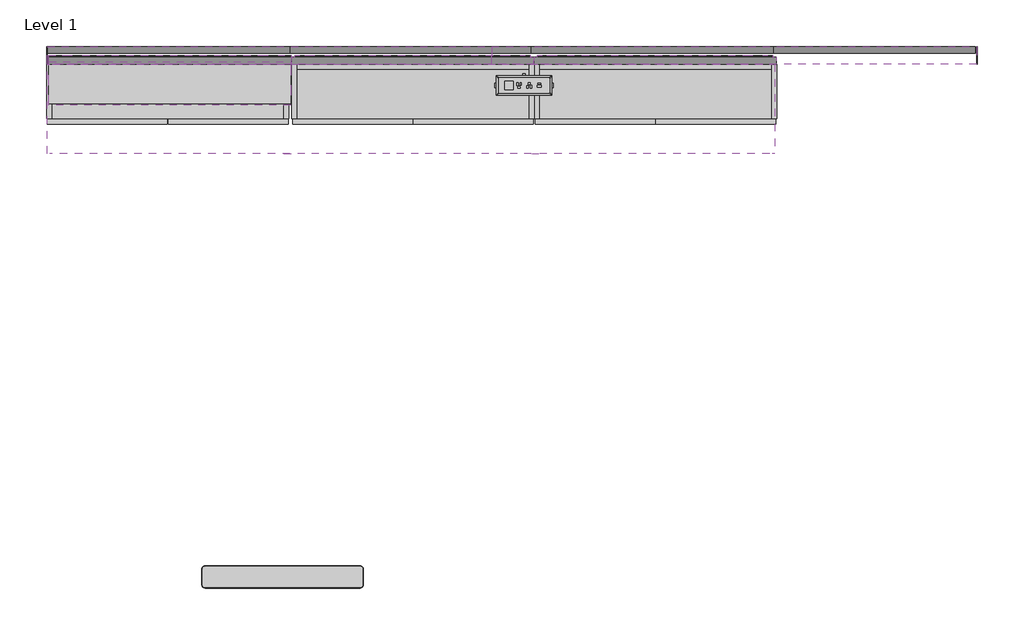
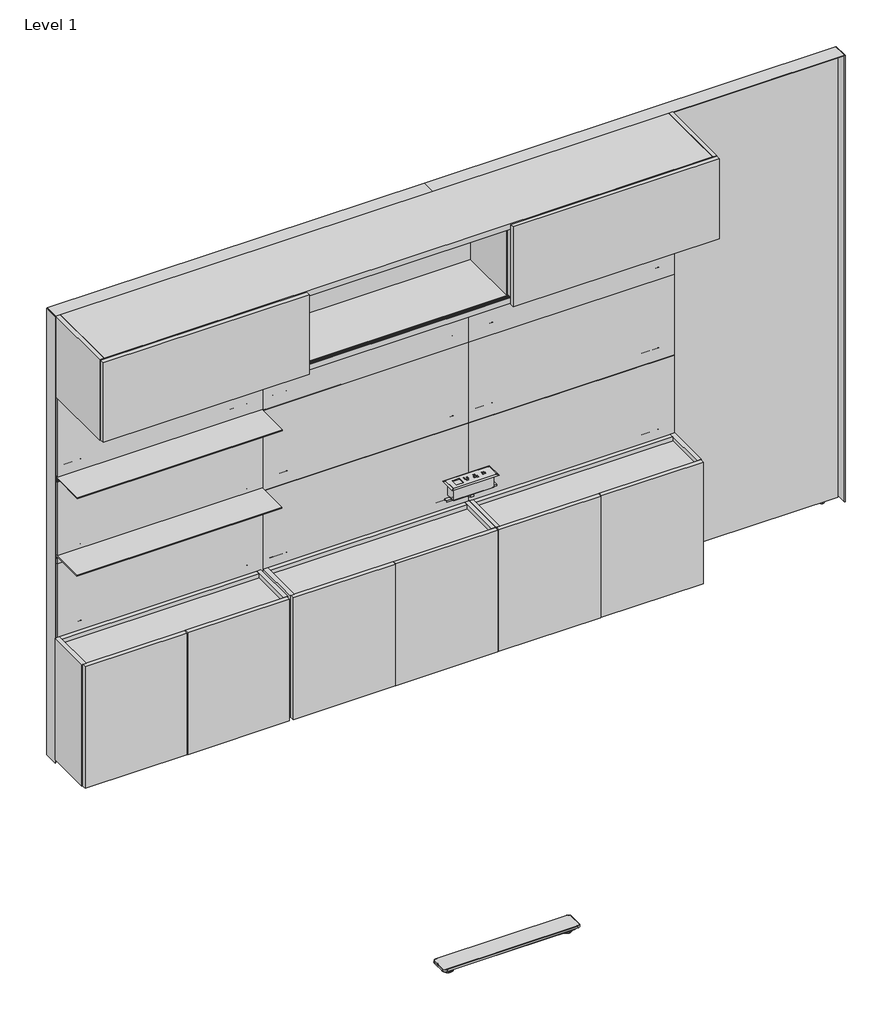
# One storey, incomplete: 25 furniture elements.
"""IFC4 building model written with IfcOpenShell, lengths in millimetres."""

from ifc_helpers import new_model, si_unit, origin, place, context, project, spatial, transform, mapped, element, save
from components import furniture_4df2ae18, furniture_e45f25e7, furniture_120a830a, furniture_a181dc65, furniture_9a9e18b9, furniture_f40e33f1, furniture_62f48795, furniture_ab4901f7, furniture_01d7865a, furniture_cdfc1ff7, in_surface_33791ff7, t_foot_2f0a3af6

model = new_model("IFC4")

# Units and contexts
model_context = context("Model", 3, world=origin())
ifc_project = project(units=[si_unit("LENGTHUNIT", "METRE", prefix="MILLI")], contexts=[model_context])

# Site, building, storey
site = spatial("IfcSite", under=ifc_project)
building = spatial("IfcBuilding", under=site)
storey = spatial("IfcBuildingStorey", under=building, Name="Level 1", Elevation=0.0)

# Furniture
placement = place(None, origin())
furniture_shape = furniture_4df2ae18(model_context)
element("IfcFurniture", 1, ObjectType="Geiger_GeigerOneCasegoods_OverheadStorageSlidingDoorFullCase : Vertical Veneer 108Wx 14.125Dx 14.875H", at=placement, inside=storey, context=model_context, shape_type="MappedRepresentation", body=[
    mapped(furniture_shape, transform((12608.1260042, 3998.5272458, 1733.3401798), x_axis=(1.0, 0.0, 0.0), y_axis=(0.0, 1.0, 0.0), z_axis=(0.0, 0.0, 1.0))),
])
furniture_2_shape = furniture_e45f25e7(model_context)
element("IfcFurniture", 2, ObjectType="Geiger_GeigerOneCasegoods_UtilityCabinetForUseWithCredenzaDeskAccepts0Legs : Vertical Veneer 36Wx 8.875Dx 22.5H", at=placement, inside=storey, context=model_context, shape_type="MappedRepresentation", body=[
    mapped(furniture_2_shape, transform((12604.6937596, 3998.5272458, 17.201721), x_axis=(1.0, 0.0, 0.0), y_axis=(0.0, 1.0, 0.0), z_axis=(0.0, 0.0, 1.0))),
])
element("IfcFurniture", 3, ObjectType="Geiger_GeigerOneCasegoods_UtilityCabinetForUseWithCredenzaDeskAccepts0Legs : Vertical Veneer 36Wx 8.875Dx 22.5H", at=placement, inside=storey, context=model_context, shape_type="MappedRepresentation", body=[
    mapped(furniture_2_shape, transform((13530.2937596, 3998.5272458, 17.201721), x_axis=(1.0, 0.0, 0.0), y_axis=(0.0, 1.0, 0.0), z_axis=(0.0, 0.0, 1.0))),
])
element("IfcFurniture", 4, ObjectType="Geiger_GeigerOneCasegoods_UtilityCabinetForUseWithCredenzaDeskAccepts0Legs : Vertical Veneer 36Wx 8.875Dx 22.5H", at=placement, inside=storey, context=model_context, shape_type="MappedRepresentation", body=[
    mapped(furniture_2_shape, transform((14444.6937596, 3998.5272458, 17.201721), x_axis=(1.0, 0.0, 0.0), y_axis=(0.0, 1.0, 0.0), z_axis=(0.0, 0.0, 1.0))),
])
furniture_3_shape = furniture_120a830a(model_context)
element("IfcFurniture", 5, ObjectType="Geiger_GeigerOneCasegoods_Casegoods_AccessoryShelf : 35.875Wx 6.5Dx 0.375H", at=placement, inside=storey, context=model_context, shape_type="MappedRepresentation", body=[
    mapped(furniture_3_shape, transform((12613.8307306, 4008.1064707, 1347.4954), x_axis=(1.0, 0.0, 0.0), y_axis=(0.0, 1.0, 0.0), z_axis=(0.0, 0.0, 1.0))),
])
element("IfcFurniture", 6, ObjectType="Geiger_GeigerOneCasegoods_Casegoods_AccessoryShelf : 35.875Wx 6.5Dx 0.375H", at=placement, inside=storey, context=model_context, shape_type="MappedRepresentation", body=[
    mapped(furniture_3_shape, transform((12613.8307306, 4014.4564707, 979.1954), x_axis=(1.0, 0.0, 0.0), y_axis=(0.0, 1.0, 0.0), z_axis=(0.0, 0.0, 1.0))),
])
furniture_4_shape = furniture_a181dc65(model_context)
element("IfcFurniture", 7, ObjectType="Geiger_GeigerOneCasegoods_WallTopTrimSingleSidedWall : 66Wx2.625Dx0.125H", at=placement, inside=storey, context=model_context, shape_type="MappedRepresentation", body=[
    mapped(furniture_4_shape, transform((12608.1260042, 4032.2022458, 2108.1746), x_axis=(1.0, 0.0, 0.0), y_axis=(0.0, 1.0, 0.0), z_axis=(0.0, 0.0, 1.0))),
])
furniture_5_shape = furniture_9a9e18b9(model_context)
element("IfcFurniture", 8, ObjectType="Geiger_GeigerOneCasegoods_WallEndTrim : SingleSided 2.625Wx 0.125Dx 82.625H", at=placement, inside=storey, context=model_context, shape_type="MappedRepresentation", body=[
    mapped(furniture_5_shape, transform((16113.3260042, 4031.8647458, 12.7), x_axis=(1.0, 0.0, 0.0), y_axis=(0.0, 1.0, 0.0), z_axis=(0.0, 0.0, 1.0))),
])
element("IfcFurniture", 9, ObjectType="Geiger_GeigerOneCasegoods_WallEndTrim : SingleSided 2.625Wx 0.125Dx 82.625H", at=placement, inside=storey, context=model_context, shape_type="MappedRepresentation", body=[
    mapped(furniture_5_shape, transform((12604.9510042, 4031.8647458, 12.7), x_axis=(1.0, 0.0, 0.0), y_axis=(0.0, 1.0, 0.0), z_axis=(0.0, 0.0, 1.0))),
])
furniture_6_shape = furniture_f40e33f1(model_context)
element("IfcFurniture", 10, ObjectType="Geiger_GeigerOneCasegoods_WallTopTrimSingleSidedWall : 72Wx2.625Dx0.125H", at=placement, inside=storey, context=model_context, shape_type="MappedRepresentation", body=[
    mapped(furniture_6_shape, transform((14284.5260042, 4032.2022458, 2108.1746), x_axis=(1.0, 0.0, 0.0), y_axis=(0.0, 1.0, 0.0), z_axis=(0.0, 0.0, 1.0))),
])
furniture_7_shape = furniture_62f48795(model_context)
element("IfcFurniture", 11, ObjectType="Geiger_GeigerOneCasegoods_WallFrameStandardApplication : 36Wx1Dx82.5H", at=placement, inside=storey, context=model_context, shape_type="MappedRepresentation", body=[
    mapped(furniture_7_shape, transform((14431.6454805, 4065.2022458, 0.0), x_axis=(1.0, 0.0, 0.0), y_axis=(0.0, 1.0, 0.0), z_axis=(0.0, 0.0, 1.0))),
])
element("IfcFurniture", 12, ObjectType="Geiger_GeigerOneCasegoods_WallFrameStandardApplication : 36Wx1Dx82.5H", at=placement, inside=storey, context=model_context, shape_type="MappedRepresentation", body=[
    mapped(furniture_7_shape, transform((13517.2454805, 4065.2022458, 0.0), x_axis=(1.0, 0.0, 0.0), y_axis=(0.0, 1.0, 0.0), z_axis=(0.0, 0.0, 1.0))),
])
element("IfcFurniture", 13, ObjectType="Geiger_GeigerOneCasegoods_WallFrameStandardApplication : 36Wx1Dx82.5H", at=placement, inside=storey, context=model_context, shape_type="MappedRepresentation", body=[
    mapped(furniture_7_shape, transform((12608.1260042, 4065.2022458, 0.0), x_axis=(1.0, 0.0, 0.0), y_axis=(0.0, 1.0, 0.0), z_axis=(0.0, 0.0, 1.0))),
])
furniture_8_shape = furniture_ab4901f7(model_context)
element("IfcFurniture", 14, ObjectType="Geiger_GeigerOneCasegoods_WallFrameStandardApplication : 30Wx1Dx82.5H", at=placement, inside=storey, context=model_context, shape_type="MappedRepresentation", body=[
    mapped(furniture_8_shape, transform((15346.0454805, 4065.2022458, 0.0), x_axis=(1.0, 0.0, 0.0), y_axis=(0.0, 1.0, 0.0), z_axis=(0.0, 0.0, 1.0))),
])
furniture_9_shape = furniture_01d7865a(model_context)
element("IfcFurniture", 15, ObjectType="Geiger_GeigerOneCasegoods_WallTileAcceptsShelfandTileAboveFabr : 36Wx 1.25Dx 15H", at=placement, inside=storey, context=model_context, shape_type="MappedRepresentation", body=[
    mapped(furniture_9_shape, transform((12613.8307306, 4031.6030458, 1346.8886), x_axis=(1.0, 0.0, 0.0), y_axis=(0.0, 1.0, 0.0), z_axis=(0.0, 0.0, 1.0))),
])
element("IfcFurniture", 16, ObjectType="Geiger_GeigerOneCasegoods_WallTileAcceptsShelfandTileAboveFabr : 36Wx 1.25Dx 15H", at=placement, inside=storey, context=model_context, shape_type="MappedRepresentation", body=[
    mapped(furniture_9_shape, transform((12613.8307306, 4031.6030458, 947.8386), x_axis=(1.0, 0.0, 0.0), y_axis=(0.0, 1.0, 0.0), z_axis=(0.0, 0.0, 1.0))),
])
element("IfcFurniture", 17, ObjectType="Geiger_GeigerOneCasegoods_WallTileAcceptsShelfandTileAboveFabr : 36Wx 1.25Dx 15H", at=placement, inside=storey, context=model_context, shape_type="MappedRepresentation", body=[
    mapped(furniture_9_shape, transform((12613.8307306, 4031.6030458, 586.8886), x_axis=(1.0, 0.0, 0.0), y_axis=(0.0, 1.0, 0.0), z_axis=(0.0, 0.0, 1.0))),
])
furniture_10_shape = furniture_cdfc1ff7(model_context)
element("IfcFurniture", 18, ObjectType="Geiger_GeigerOneCasegoods_WallTileAcceptsTileAboveFabric : Fabric 36Wx 1.25Dx 15H", at=placement, inside=storey, context=model_context, shape_type="MappedRepresentation", body=[
    mapped(furniture_10_shape, transform((13528.2307306, 4031.6030458, 1346.8886), x_axis=(1.0, 0.0, 0.0), y_axis=(0.0, 1.0, 0.0), z_axis=(0.0, 0.0, 1.0))),
])
element("IfcFurniture", 19, ObjectType="Geiger_GeigerOneCasegoods_WallTileAcceptsTileAboveFabric : Fabric 36Wx 1.25Dx 15H", at=placement, inside=storey, context=model_context, shape_type="MappedRepresentation", body=[
    mapped(furniture_10_shape, transform((13528.2307306, 4031.6030458, 586.8886), x_axis=(1.0, 0.0, 0.0), y_axis=(0.0, 1.0, 0.0), z_axis=(0.0, 0.0, 1.0))),
])
element("IfcFurniture", 20, ObjectType="Geiger_GeigerOneCasegoods_WallTileAcceptsTileAboveFabric : Fabric 36Wx 1.25Dx 15H", at=placement, inside=storey, context=model_context, shape_type="MappedRepresentation", body=[
    mapped(furniture_10_shape, transform((13528.2307306, 4031.6030458, 969.2762), x_axis=(1.0, 0.0, 0.0), y_axis=(0.0, 1.0, 0.0), z_axis=(0.0, 0.0, 1.0))),
])
element("IfcFurniture", 21, ObjectType="Geiger_GeigerOneCasegoods_WallTileAcceptsTileAboveFabric : Fabric 36Wx 1.25Dx 15H", at=placement, inside=storey, context=model_context, shape_type="MappedRepresentation", body=[
    mapped(furniture_10_shape, transform((14442.6307306, 4031.6030458, 1346.8886), x_axis=(1.0, 0.0, 0.0), y_axis=(0.0, 1.0, 0.0), z_axis=(0.0, 0.0, 1.0))),
])
element("IfcFurniture", 22, ObjectType="Geiger_GeigerOneCasegoods_WallTileAcceptsTileAboveFabric : Fabric 36Wx 1.25Dx 15H", at=placement, inside=storey, context=model_context, shape_type="MappedRepresentation", body=[
    mapped(furniture_10_shape, transform((14442.6307306, 4031.6030458, 586.8886), x_axis=(1.0, 0.0, 0.0), y_axis=(0.0, 1.0, 0.0), z_axis=(0.0, 0.0, 1.0))),
])
element("IfcFurniture", 23, ObjectType="Geiger_GeigerOneCasegoods_WallTileAcceptsTileAboveFabric : Fabric 36Wx 1.25Dx 15H", at=placement, inside=storey, context=model_context, shape_type="MappedRepresentation", body=[
    mapped(furniture_10_shape, transform((14442.6307306, 4031.6030458, 969.2762), x_axis=(1.0, 0.0, 0.0), y_axis=(0.0, 1.0, 0.0), z_axis=(0.0, 0.0, 1.0))),
])
in_surface_shape = in_surface_33791ff7(model_context)
element("IfcFurniture", 24, ObjectType="Geiger_GeigerOneCasegoods_PowerComponent2PowerOutlets1USBA1USBC : In Surface", at=placement, inside=storey, context=model_context, shape_type="MappedRepresentation", body=[
    mapped(in_surface_shape, transform((14406.2906979, 3918.5157642, 769.5946), x_axis=(1.0, 0.0, 0.0), y_axis=(0.0, 1.0, 0.0), z_axis=(0.0, 0.0, 1.0))),
])
t_foot_shape = t_foot_2f0a3af6(model_context)
element("IfcFurniture", 25, ObjectType="Geiger_GeigerOneCasegoods_LegSupport : T Foot", at=placement, inside=storey, context=model_context, shape_type="MappedRepresentation", body=[
    mapped(t_foot_shape, transform((13495.2471154, 2062.9905272, 0.0985635), x_axis=(1.0, 0.0, 0.0), y_axis=(0.0, 1.0, 0.0), z_axis=(0.0, 0.0, 1.0))),
])

save(model, "model.ifc")
